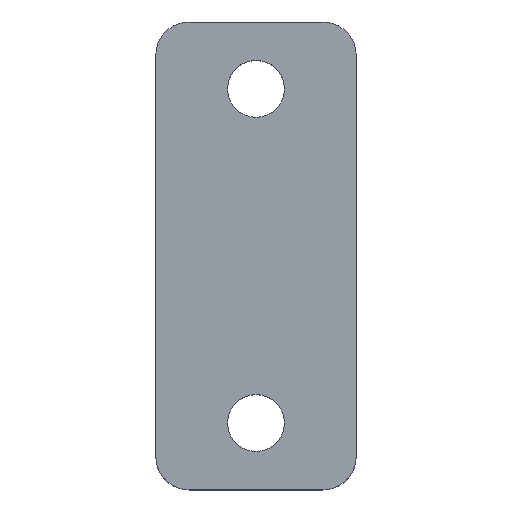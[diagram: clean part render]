
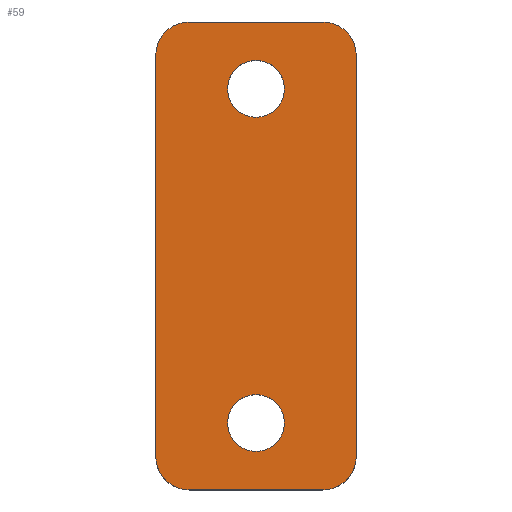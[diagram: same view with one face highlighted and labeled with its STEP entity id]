
A CAD part, top view. The second image highlights one B-rep face of the part: STEP entity #59.
In plain terms, the highlighted planar face has unit normal (0, 0, 1).
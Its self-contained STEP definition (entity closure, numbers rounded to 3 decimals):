
#21 = EDGE_CURVE('',#22,#24,#26,.T.);
#22 = VERTEX_POINT('',#23);
#23 = CARTESIAN_POINT('',(-18.,6.,19.2));
#24 = VERTEX_POINT('',#25);
#25 = CARTESIAN_POINT('',(-16.,4.,19.2));
#26 = CIRCLE('',#27,2.);
#27 = AXIS2_PLACEMENT_3D('',#28,#29,#30);
#28 = CARTESIAN_POINT('',(-16.,6.,19.2));
#29 = DIRECTION('',(0.,0.,1.));
#30 = DIRECTION('',(1.,0.,0.));
#59 = ADVANCED_FACE('',(#60,#120,#131),#142,.T.);
#60 = FACE_BOUND('',#61,.T.);
#61 = EDGE_LOOP('',(#62,#63,#71,#80,#88,#97,#105,#114));
#62 = ORIENTED_EDGE('',*,*,#21,.T.);
#63 = ORIENTED_EDGE('',*,*,#64,.T.);
#64 = EDGE_CURVE('',#24,#65,#67,.T.);
#65 = VERTEX_POINT('',#66);
#66 = CARTESIAN_POINT('',(-8.,4.,19.2));
#67 = LINE('',#68,#69);
#68 = CARTESIAN_POINT('',(-16.,4.,19.2));
#69 = VECTOR('',#70,1.);
#70 = DIRECTION('',(1.,0.,0.));
#71 = ORIENTED_EDGE('',*,*,#72,.T.);
#72 = EDGE_CURVE('',#65,#73,#75,.T.);
#73 = VERTEX_POINT('',#74);
#74 = CARTESIAN_POINT('',(-6.,6.,19.2));
#75 = CIRCLE('',#76,2.);
#76 = AXIS2_PLACEMENT_3D('',#77,#78,#79);
#77 = CARTESIAN_POINT('',(-8.,6.,19.2));
#78 = DIRECTION('',(0.,0.,1.));
#79 = DIRECTION('',(1.,0.,0.));
#80 = ORIENTED_EDGE('',*,*,#81,.T.);
#81 = EDGE_CURVE('',#73,#82,#84,.T.);
#82 = VERTEX_POINT('',#83);
#83 = CARTESIAN_POINT('',(-6.,30.,19.2));
#84 = LINE('',#85,#86);
#85 = CARTESIAN_POINT('',(-6.,6.,19.2));
#86 = VECTOR('',#87,1.);
#87 = DIRECTION('',(0.,1.,0.));
#88 = ORIENTED_EDGE('',*,*,#89,.T.);
#89 = EDGE_CURVE('',#82,#90,#92,.T.);
#90 = VERTEX_POINT('',#91);
#91 = CARTESIAN_POINT('',(-8.,32.,19.2));
#92 = CIRCLE('',#93,2.);
#93 = AXIS2_PLACEMENT_3D('',#94,#95,#96);
#94 = CARTESIAN_POINT('',(-8.,30.,19.2));
#95 = DIRECTION('',(0.,0.,1.));
#96 = DIRECTION('',(1.,0.,0.));
#97 = ORIENTED_EDGE('',*,*,#98,.F.);
#98 = EDGE_CURVE('',#99,#90,#101,.T.);
#99 = VERTEX_POINT('',#100);
#100 = CARTESIAN_POINT('',(-16.,32.,19.2));
#101 = LINE('',#102,#103);
#102 = CARTESIAN_POINT('',(-16.,32.,19.2));
#103 = VECTOR('',#104,1.);
#104 = DIRECTION('',(1.,0.,0.));
#105 = ORIENTED_EDGE('',*,*,#106,.T.);
#106 = EDGE_CURVE('',#99,#107,#109,.T.);
#107 = VERTEX_POINT('',#108);
#108 = CARTESIAN_POINT('',(-18.,30.,19.2));
#109 = CIRCLE('',#110,2.);
#110 = AXIS2_PLACEMENT_3D('',#111,#112,#113);
#111 = CARTESIAN_POINT('',(-16.,30.,19.2));
#112 = DIRECTION('',(0.,0.,1.));
#113 = DIRECTION('',(1.,0.,0.));
#114 = ORIENTED_EDGE('',*,*,#115,.F.);
#115 = EDGE_CURVE('',#22,#107,#116,.T.);
#116 = LINE('',#117,#118);
#117 = CARTESIAN_POINT('',(-18.,6.,19.2));
#118 = VECTOR('',#119,1.);
#119 = DIRECTION('',(0.,1.,0.));
#120 = FACE_BOUND('',#121,.T.);
#121 = EDGE_LOOP('',(#122));
#122 = ORIENTED_EDGE('',*,*,#123,.F.);
#123 = EDGE_CURVE('',#124,#124,#126,.T.);
#124 = VERTEX_POINT('',#125);
#125 = CARTESIAN_POINT('',(-10.3,8.,19.2));
#126 = CIRCLE('',#127,1.7);
#127 = AXIS2_PLACEMENT_3D('',#128,#129,#130);
#128 = CARTESIAN_POINT('',(-12.,8.,19.2));
#129 = DIRECTION('',(0.,0.,1.));
#130 = DIRECTION('',(1.,0.,0.));
#131 = FACE_BOUND('',#132,.T.);
#132 = EDGE_LOOP('',(#133));
#133 = ORIENTED_EDGE('',*,*,#134,.F.);
#134 = EDGE_CURVE('',#135,#135,#137,.T.);
#135 = VERTEX_POINT('',#136);
#136 = CARTESIAN_POINT('',(-10.3,28.,19.2));
#137 = CIRCLE('',#138,1.7);
#138 = AXIS2_PLACEMENT_3D('',#139,#140,#141);
#139 = CARTESIAN_POINT('',(-12.,28.,19.2));
#140 = DIRECTION('',(0.,0.,1.));
#141 = DIRECTION('',(1.,0.,0.));
#142 = PLANE('',#143);
#143 = AXIS2_PLACEMENT_3D('',#144,#145,#146);
#144 = CARTESIAN_POINT('',(-12.,18.,19.2));
#145 = DIRECTION('',(0.,0.,1.));
#146 = DIRECTION('',(1.,0.,0.));
